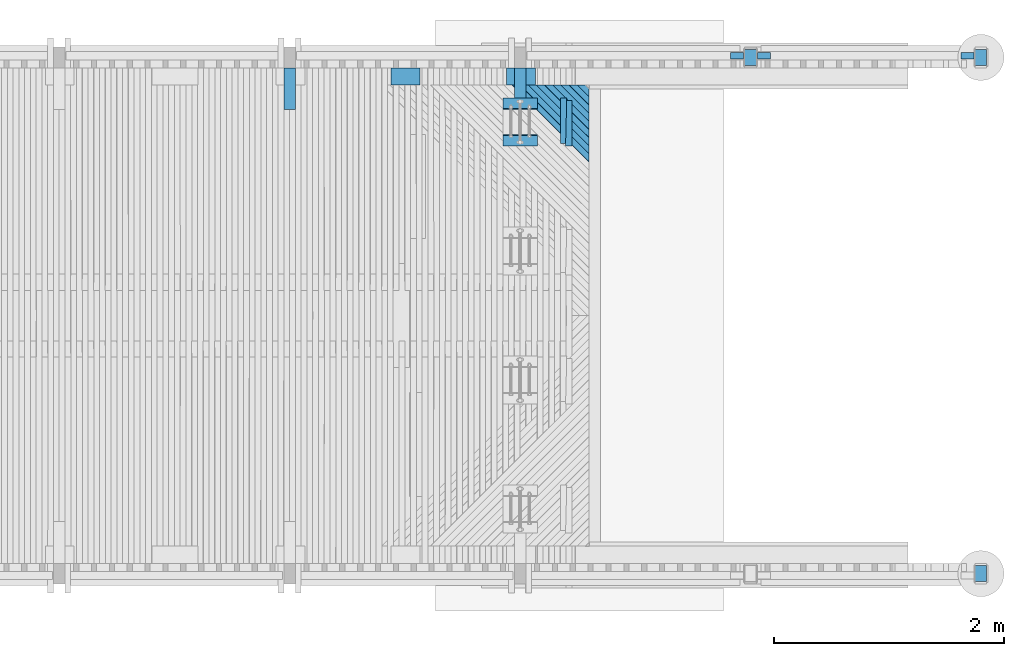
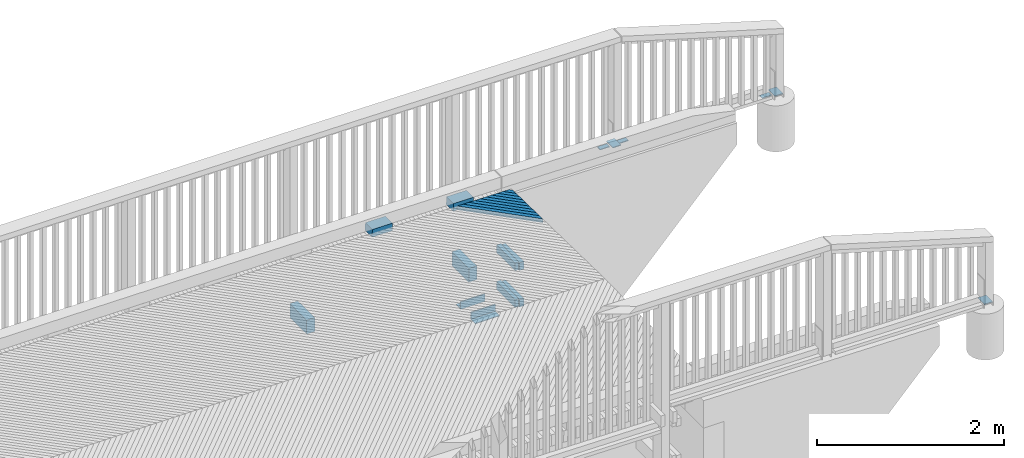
# One storey, part 49 of 52: 25 beams.
"""IFC2X3 building model written with IfcOpenShell, lengths in millimetres."""

import ifcopenshell
import ifcopenshell.guid

model = None  # the IFC model being written
_history = None  # IfcOwnerHistory: only IFC2X3 demands one
_inside = {}  # id of a spatial element -> (the spatial element, [elements in it])
_under = {}  # id of a project, library or spatial element -> (it, [spatial elements below it])
_declared = {}  # id of a project -> (the project, [libraries it declares])
_typed = {}  # id of a type object -> (the type object, [elements of that type])
_made_of = {}  # id of a material, layer set ... -> (it, [elements and type objects made of it])


def new_model(schema):
    """Start an empty IFC model of exactly this schema.

    Asked for "IFC4X3", IfcOpenShell would pick the latest addendum, in which some entities
    have other attributes; the version numbers below select the first issue.
    IFC2X3 requires an IfcOwnerHistory on every rooted entity: one is made here for all.
    """
    global model, _history
    if schema == "IFC4X3":
        model = ifcopenshell.file(schema_version=(4, 3, 0, 0))
    else:
        model = ifcopenshell.file(schema=schema)
    _inside.clear()
    _under.clear()
    _declared.clear()
    _typed.clear()
    _made_of.clear()
    _history = None
    if model.schema == "IFC2X3":
        org = make("IfcOrganization", Name="unknown")
        user = make(
            "IfcPersonAndOrganization",
            ThePerson=make("IfcPerson", FamilyName="unknown"),
            TheOrganization=org,
        )
        app = make(
            "IfcApplication",
            ApplicationDeveloper=org,
            Version="unknown",
            ApplicationFullName="unknown",
            ApplicationIdentifier="unknown",
        )
        _history = make(
            "IfcOwnerHistory",
            OwningUser=user,
            OwningApplication=app,
            ChangeAction="ADDED",
            CreationDate=0,
        )
    return model


def make(cls, **values):
    """One entity of the class cls with the attributes given. An attribute that is None is left unset."""
    return model.create_entity(
        cls, **{name: value for name, value in values.items() if value is not None}
    )


def rooted(cls, **values):
    """An entity with a GlobalId (a new one), such as an element, a storey or a relation."""
    return make(cls, GlobalId=ifcopenshell.guid.new(), OwnerHistory=_history, **values)


def si_unit(unit_type, name, prefix=None):
    """IfcSIUnit, for example si_unit("LENGTHUNIT", "METRE", prefix="MILLI")."""
    return make("IfcSIUnit", UnitType=unit_type, Prefix=prefix, Name=name)


def assignment(units):
    """IfcUnitAssignment: the units of a project."""
    return None if units is None else make("IfcUnitAssignment", Units=units)


def point(xyz):
    """IfcCartesianPoint."""
    return None if xyz is None else make("IfcCartesianPoint", Coordinates=xyz)


def direction(xyz):
    """IfcDirection."""
    return None if xyz is None else make("IfcDirection", DirectionRatios=xyz)


def frame(location, z_axis=None, x_axis=None):
    """IfcAxis2Placement3D, a coordinate frame: its origin and axes. An axis left out is left unset."""
    return make(
        "IfcAxis2Placement3D",
        Location=point(location),
        Axis=direction(z_axis),
        RefDirection=direction(x_axis),
    )


def origin_with_axes():
    """The frame at (0, 0, 0) with the z axis (0, 0, 1) and the x axis (1, 0, 0) written out."""
    return frame((0.0, 0.0, 0.0), z_axis=(0.0, 0.0, 1.0), x_axis=(1.0, 0.0, 0.0))


def place(relative_to, where):
    """IfcLocalPlacement: puts the frame where relative to a parent placement (None: the world)."""
    return make(
        "IfcLocalPlacement", PlacementRelTo=relative_to, RelativePlacement=where
    )


def context(
    kind, dimensions, precision=None, world=None, true_north=None, identifier=None
):
    """IfcGeometricRepresentationContext, for example the 3D "Model" context."""
    return make(
        "IfcGeometricRepresentationContext",
        ContextIdentifier=identifier,
        ContextType=kind,
        CoordinateSpaceDimension=dimensions,
        Precision=precision,
        WorldCoordinateSystem=world,
        TrueNorth=true_north,
    )


def subcontext(parent, identifier, kind, view, scale=None):
    """IfcGeometricRepresentationSubContext, for example "Body" below "Model"."""
    return make(
        "IfcGeometricRepresentationSubContext",
        ContextIdentifier=identifier,
        ContextType=kind,
        ParentContext=parent,
        TargetScale=scale,
        TargetView=view,
    )


def project(units=None, contexts=None):
    """IfcProject with its units and contexts."""
    return rooted(
        "IfcProject",
        Name="project",
        RepresentationContexts=contexts,
        UnitsInContext=assignment(units),
    )


def spatial(cls, under=None, at=None, **own):
    """A site, building, storey or space (cls), placed at a placement, below another one or the project."""
    s = rooted(cls, ObjectPlacement=at, **own)
    if under is not None:
        _under.setdefault(under.id(), (under, []))[1].append(s)
    return s


def faces_of(points, faces, orient=None, outer=None):
    """IfcFace entities. A face is a list of loops; a loop is a list of indices into points, from 0.

    orient and outer hold one flag for each loop. By default every Orientation is true, the
    first loop of a face is its IfcFaceOuterBound and the others are IfcFaceBound.
    """
    made = []
    for i, loops in enumerate(faces):
        bounds = []
        for j, loop in enumerate(loops):
            is_outer = j == 0 if outer is None else outer[i][j]
            bounds.append(
                make(
                    "IfcFaceOuterBound" if is_outer else "IfcFaceBound",
                    Bound=make("IfcPolyLoop", Polygon=[points[k] for k in loop]),
                    Orientation=True if orient is None else orient[i][j],
                )
            )
        made.append(make("IfcFace", Bounds=bounds))
    return made


def faceted_brep(points, faces, orient=None, outer=None, voids=None):
    """IfcFacetedBrep: a solid bounded by flat faces; with voids (closed shells), ...WithVoids."""
    shared = [point(p) for p in points]
    hull = make("IfcClosedShell", CfsFaces=faces_of(shared, faces, orient, outer))
    if voids is None:
        return make("IfcFacetedBrep", Outer=hull)
    return make(
        "IfcFacetedBrepWithVoids",
        Outer=hull,
        Voids=[
            make(cls, CfsFaces=faces_of(shared, fs, o, b)) for cls, fs, o, b in voids
        ],
    )


def shape(context_of_items, identifier, shape_type, items):
    """IfcShapeRepresentation: the items that make up one representation, for example the "Body"."""
    return make(
        "IfcShapeRepresentation",
        ContextOfItems=context_of_items,
        RepresentationIdentifier=identifier,
        RepresentationType=shape_type,
        Items=items,
    )


def material(Name=None, Category=None):
    """IfcMaterial."""
    return make("IfcMaterial", Name=Name, Category=Category)


def made_of(thing, what):
    """Note that an element or type object is made of a material, layer set ...; save() writes the relation."""
    if what is not None:
        _made_of.setdefault(what.id(), (what, []))[1].append(thing)
    return thing


def type_object(cls, material=None, **own):
    """A type object (cls), such as IfcWallType, which elements share."""
    return made_of(rooted(cls, **own), material)


def element(
    cls,
    number,
    at=None,
    inside=None,
    cuts=None,
    type_object=None,
    material=None,
    context=None,
    identifier="Body",
    shape_type=None,
    held_by="IfcProductDefinitionShape",
    body=None,
    shapes=None,
    **own,
):
    """One element of the class cls, such as IfcWall. Its Tag is "e" and its number.

    at: its placement. inside: the storey or other place that contains it. cuts: it is an
    opening in that element (IfcRelVoidsElement). A single representation is given by context,
    identifier, shape_type and body (its items); several are given by shapes. held_by: the class
    of the entity that holds the representations. save() writes the other relations.
    """
    e = rooted(cls, Tag="e%d" % number, ObjectPlacement=at, **own)
    if body is not None:
        shapes = [shape(context, identifier, shape_type, body)]
    if shapes is not None:
        e.Representation = make(held_by, Representations=shapes)
    if inside is not None:
        _inside.setdefault(inside.id(), (inside, []))[1].append(e)
    if cuts is not None:
        rooted(
            "IfcRelVoidsElement", RelatingBuildingElement=cuts, RelatedOpeningElement=e
        )
    if type_object is not None:
        _typed.setdefault(type_object.id(), (type_object, []))[1].append(e)
    return made_of(e, material)


def aggregate(whole, parts):
    """IfcRelAggregates: a whole, such as a stair, and the parts it consists of."""
    return rooted("IfcRelAggregates", RelatingObject=whole, RelatedObjects=parts)


def save(model, path):
    """Write the relations noted so far, then the file.

    IfcRelAggregates (storeys below a building ...), IfcRelContainedInSpatialStructure (elements
    in a storey), IfcRelDefinesByType, IfcRelAssociatesMaterial and IfcRelDeclares: one each for
    every whole, place, type object, material and project.
    """
    for whole, parts in _under.values():
        aggregate(whole, parts)
    for where, things in _inside.values():
        rooted(
            "IfcRelContainedInSpatialStructure",
            RelatedElements=things,
            RelatingStructure=where,
        )
    for kind, things in _typed.values():
        rooted("IfcRelDefinesByType", RelatedObjects=things, RelatingType=kind)
    for what, things in _made_of.values():
        rooted("IfcRelAssociatesMaterial", RelatedObjects=things, RelatingMaterial=what)
    for by, libraries in _declared.values():
        rooted("IfcRelDeclares", RelatingContext=by, RelatedDefinitions=libraries)
    model.write(path)


model = new_model("IFC2X3")

# Units and contexts
model_context = context("Model", 3, precision=1e-05, world=origin_with_axes())
body_context = subcontext(model_context, "Body", "Model", "MODEL_VIEW")
ifc_project = project(units=[si_unit("LENGTHUNIT", "METRE", prefix="MILLI"), si_unit("AREAUNIT", "SQUARE_METRE"), si_unit("VOLUMEUNIT", "CUBIC_METRE"), si_unit("MASSUNIT", "GRAM", prefix="KILO"), si_unit("TIMEUNIT", "SECOND"), si_unit("PLANEANGLEUNIT", "RADIAN"), si_unit("SOLIDANGLEUNIT", "STERADIAN"), si_unit("THERMODYNAMICTEMPERATUREUNIT", "DEGREE_CELSIUS"), si_unit("LUMINOUSINTENSITYUNIT", "LUMEN")], contexts=[model_context])

# Site, building, storey
site_placement = place(None, origin_with_axes())
site = spatial("IfcSite", under=ifc_project, at=site_placement, Name="Undefined", CompositionType="ELEMENT")
building_placement = place(site_placement, origin_with_axes())
building = spatial("IfcBuilding", under=site, at=building_placement, Name="Undefined", CompositionType="ELEMENT")
storey_placement = place(building_placement, origin_with_axes())
storey = spatial("IfcBuildingStorey", under=building, at=storey_placement, Name="Undefined", CompositionType="ELEMENT", Elevation=0.0)

# Beams
ifc_material_1 = material(Name="TIMBER/Timber_Undefined")
beam_type_1 = type_object("IfcBeamType", Name="150*100", PredefinedType="NOTDEFINED")
for number, where, z_axis, x_axis in (
    (1, (15881.7966501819, 4439.99999999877, 3166.35655532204), (0.0, -1.0, 0.0), (0.999929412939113, 0.0, -0.0118814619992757)),
    (2, (14881.4642555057, 4439.99999999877, 3178.62153167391), (0.0, -1.0, 0.0), (0.999947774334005, 0.0, -0.0102200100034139)),
):
    element("IfcBeam", number, at=place(storey_placement, frame(where, z_axis=z_axis, x_axis=x_axis)), inside=storey, type_object=beam_type_1, material=ifc_material_1, Name="TÖRMÄYSJOHDE", ObjectType="150*100", context=body_context, shape_type="Brep", body=[
        faceted_brep([(-3.63797880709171e-12, 50.0, -75.0), (-3.63797880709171e-12, 50.0, 75.0), (250.000589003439, 50.0000000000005, 75.0), (250.000589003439, 50.0000000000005, -75.0), (0.0, -49.9999999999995, 75.0), (250.000589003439, -50.0, 75.0), (0.0, -49.9999999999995, -75.0), (250.000589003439, -50.0, -75.0)], [[[0, 1, 2, 3]], [[1, 4, 5, 2]], [[4, 6, 7, 5]], [[6, 0, 3, 7]], [[5, 7, 3, 2]], [[6, 4, 1, 0]]]),
    ])
ifc_material_2 = material(Name="STEEL/AISI316")
beam_type_2 = type_object("IfcBeamType", Name="PL60*10", PredefinedType="NOTDEFINED")
for number, where, z_axis, x_axis in (
    (3, (19940.0034960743, 4620.00000020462, 3073.75999999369), (0.000116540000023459, -0.999999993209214, 0.0), (-0.999999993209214, -0.000116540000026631, 0.0)),
    (4, (18059.9965039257, 4620.00000020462, 3101.8699999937), (-0.000116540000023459, -0.999999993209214, 0.0), (0.999999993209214, -0.000116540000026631, 0.0)),
    (5, (17940.0034960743, 4620.00000020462, 3101.86999999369), (0.000116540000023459, -0.999999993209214, 0.0), (-0.999999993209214, -0.000116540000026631, 0.0)),
):
    element("IfcBeam", number, at=place(storey_placement, frame(where, z_axis=z_axis, x_axis=x_axis)), inside=storey, type_object=beam_type_2, material=ifc_material_2, Name="KAIDEPYLVÄS", ObjectType="PL60*10", context=body_context, shape_type="Brep", body=[
        faceted_brep([(0.0, 5.0, -30.0), (3.63797880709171e-12, 5.0, 30.0000000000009), (115.000000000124, 5.0, 30.0000000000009), (115.000000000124, 5.0, -30.0), (3.63797880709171e-12, -5.0, 30.0000000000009), (115.000000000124, -5.0, 30.0000000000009), (0.0, -5.0, -30.0), (115.000000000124, -5.0, -30.0)], [[[0, 1, 2, 3]], [[1, 4, 5, 2]], [[4, 6, 7, 5]], [[6, 0, 3, 7]], [[5, 7, 3, 2]], [[6, 4, 1, 0]]]),
    ])
beam_type_3 = type_object("IfcBeamType", Name="PL100*10", PredefinedType="NOTDEFINED")
for number, where, z_axis, x_axis in (
    (6, (19999.9999998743, 4674.98000000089, 3089.56000000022), (1.0, 0.0, 0.0), (0.0, -1.0, 0.0)),
    (7, (17999.9999998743, 4674.98000000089, 3117.67000000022), (1.0, 0.0, 0.0), (0.0, -1.0, 0.0)),
    (8, (19999.9999998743, 55.0200000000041, 3089.56000000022), (1.0, 0.0, 0.0), (0.0, 1.0, 0.0)),
):
    element("IfcBeam", number, at=place(storey_placement, frame(where, z_axis=z_axis, x_axis=x_axis)), inside=storey, type_object=beam_type_3, material=ifc_material_2, Name="KAIDEPYLVÄS", ObjectType="PL100*10", context=body_context, shape_type="Brep", body=[
        faceted_brep([(0.0, 5.0, -50.0), (0.0, 5.0, 50.0), (140.0, 5.0, 50.0), (140.0, 5.0, -50.0), (0.0, -5.0, 50.0), (140.0, -5.0, 50.0), (0.0, -5.0, -50.0), (140.0, -5.0, -50.0)], [[[0, 1, 2, 3]], [[1, 4, 5, 2]], [[4, 6, 7, 5]], [[6, 0, 3, 7]], [[5, 7, 3, 2]], [[6, 4, 1, 0]]]),
    ])
ifc_material_3 = material(Name="STEEL/S235JR")
beam_type_4 = type_object("IfcBeamType", Name="L100*10", PredefinedType="NOTDEFINED")
for number, where, z_axis, x_axis, name in (
    (9, (16150.0, 3887.50000000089, 2025.33), (0.0, -1.0, 0.0), (-1.0, 0.0, 0.0), "BEAM"),
    (10, (16150.0, 4202.50000000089, 2025.33), (0.0, 0.0, 1.0), (-1.0, 0.0, 0.0), "BEAM"),
):
    element("IfcBeam", number, at=place(storey_placement, frame(where, z_axis=z_axis, x_axis=x_axis)), inside=storey, type_object=beam_type_4, material=ifc_material_3, Name=name, ObjectType="L100*10", context=body_context, shape_type="Brep", body=[
        faceted_brep([(0.0, 50.0, -50.0), (0.0, 50.0, 50.0), (300.0, 50.0, 50.0), (300.0, 50.0, -50.0), (0.0, 40.0, 50.0), (300.0, 40.0, 50.0), (0.0, 40.0, -40.0), (300.0, 40.0, -40.0), (0.0, -50.0, -40.0), (300.0, -50.0, -40.0), (0.0, -50.0, -50.0), (300.0, -50.0, -50.0)], [[[0, 1, 2, 3]], [[1, 4, 5, 2]], [[4, 6, 7, 5]], [[6, 8, 9, 7]], [[8, 10, 11, 9]], [[10, 0, 3, 11]], [[5, 7, 9, 11, 3, 2]], [[10, 8, 6, 4, 1, 0]]]),
    ])
beam_type_5 = type_object("IfcBeamType", Name="100*60", PredefinedType="NOTDEFINED")
beam_1_placement = place(storey_placement, frame((16380.01, 3857.5, 2533.62000000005), z_axis=(0.0, 0.0, 1.0), x_axis=(0.0, 1.0, 0.0)))
element("IfcBeam", 11, at=beam_1_placement, inside=storey, type_object=beam_type_5, material=ifc_material_1, Name="BEAM", ObjectType="100*60", context=body_context, shape_type="Brep", body=[
    faceted_brep([(0.0, 30.0, -50.0), (0.0, 30.0, 50.0), (395.0, 30.0, 50.0), (395.0, 30.0, -50.0), (395.0, -25.2500000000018, 50.0), (395.0, -25.2500000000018, -50.0), (0.0, -15.2499998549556, -50.0), (0.0, -15.2499998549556, 50.0)], [[[0, 1, 2, 3]], [[3, 2, 4, 5]], [[0, 3, 5, 6]], [[1, 0, 6, 7]], [[2, 1, 7, 4]], [[6, 5, 4, 7]]]),
])
beam_2_placement = place(storey_placement, frame((16420.01, 3837.5, 2533.62000000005), z_axis=(0.0, 0.0, 1.0), x_axis=(0.0, 1.0, 0.0)))
element("IfcBeam", 12, at=beam_2_placement, inside=storey, type_object=beam_type_5, material=ifc_material_1, Name="BEAM", ObjectType="100*60", context=body_context, shape_type="Brep", body=[
    faceted_brep([(0.0, -30.0, 50.0), (0.0, -30.0, -50.0), (395.0, -30.0, -50.0), (395.0, -30.0, 50.0), (395.0, 15.2563291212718, 50.0), (0.0, 25.2563292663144, 50.0), (0.0, 25.2563292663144, -50.0), (395.0, 15.2563291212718, -50.0)], [[[0, 1, 2, 3]], [[0, 3, 4, 5]], [[1, 0, 5, 6]], [[2, 1, 6, 7]], [[3, 2, 7, 4]], [[6, 5, 4, 7]]]),
])
beam_3_placement = place(storey_placement, frame((16380.0, 3857.5, 2055.33), z_axis=(0.0, 0.0, 1.0), x_axis=(0.0, 1.0, 0.0)))
element("IfcBeam", 13, at=beam_3_placement, inside=storey, type_object=beam_type_5, material=ifc_material_1, Name="BEAM", ObjectType="100*60", context=body_context, shape_type="Brep", body=[
    faceted_brep([(0.0, 30.0, -50.0), (0.0, 30.0, 50.0), (395.0, 30.0, 50.0), (395.0, 30.0, -50.0), (395.0, -25.2500000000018, 50.0), (395.0, -25.2500000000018, -50.0), (0.0, -15.2499998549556, -50.0), (0.0, -15.2499998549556, 50.0)], [[[0, 1, 2, 3]], [[3, 2, 4, 5]], [[0, 3, 5, 6]], [[1, 0, 6, 7]], [[2, 1, 7, 4]], [[6, 5, 4, 7]]]),
])
beam_4_placement = place(storey_placement, frame((16420.0, 3837.5, 2055.33), z_axis=(0.0, 0.0, 1.0), x_axis=(0.0, 1.0, 0.0)))
element("IfcBeam", 14, at=beam_4_placement, inside=storey, type_object=beam_type_5, material=ifc_material_1, Name="BEAM", ObjectType="100*60", context=body_context, shape_type="Brep", body=[
    faceted_brep([(0.0, -30.0, 50.0), (0.0, -30.0, -50.0), (395.0, -30.0, -50.0), (395.0, -30.0, 50.0), (395.0, 15.2563291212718, 50.0), (0.0, 25.2563292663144, 50.0), (0.0, 25.2563292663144, -50.0), (395.0, 15.2563291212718, -50.0)], [[[0, 1, 2, 3]], [[0, 3, 4, 5]], [[1, 0, 5, 6]], [[2, 1, 6, 7]], [[3, 2, 7, 4]], [[6, 5, 4, 7]]]),
])
beam_type_6 = type_object("IfcBeamType", Name="50*50", PredefinedType="NOTDEFINED")
beam_5_placement = place(storey_placement, frame((18531.7317784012, 2365.49989967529, 3144.0077743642), z_axis=(0.706781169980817, 0.706981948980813, -0.0252369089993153), x_axis=(-0.707258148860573, 0.706948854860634, -0.00303767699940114)))
element("IfcBeam", 15, at=beam_5_placement, inside=storey, type_object=beam_type_6, material=ifc_material_1, Name="BEAM", ObjectType="50*50", context=body_context, shape_type="Brep", body=[
    faceted_brep([(2804.3406783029, -25.0000000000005, 24.9999999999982), (2854.34301907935, -24.9999999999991, -25.0), (2852.92877373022, 25.0000000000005, -25.0), (2802.92643296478, 25.0, 24.9999999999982), (2756.83447595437, 24.9999999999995, 24.9999999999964), (2755.72500686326, -25.0000000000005, 24.9999999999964), (2705.75872714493, -25.0000000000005, -25.0000000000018), (2706.86819623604, 25.0, -25.0000000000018)], [[[0, 1, 2, 3]], [[0, 3, 4, 5]], [[1, 0, 5, 6]], [[2, 1, 6, 7]], [[3, 2, 7, 4]], [[6, 5, 4, 7]]]),
])
beam_6_placement = place(storey_placement, frame((18461.0182922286, 2365.49989967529, 3145.24068549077), z_axis=(0.7067841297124, 0.706981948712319, -0.0251538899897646), x_axis=(-0.70725778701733, 0.706948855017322, -0.00312075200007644)))
element("IfcBeam", 16, at=beam_6_placement, inside=storey, type_object=beam_type_6, material=ifc_material_1, Name="BEAM", ObjectType="50*50", context=body_context, shape_type="Brep", body=[
    faceted_brep([(2804.3406783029, -25.0000000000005, 24.9999999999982), (2854.34301907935, -24.9999999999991, -25.0), (2852.92877373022, 25.0000000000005, -25.0), (2802.92643296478, 25.0, 24.9999999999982), (2656.84922092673, 25.0000000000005, 25.0000000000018), (2655.74805253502, -24.9999999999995, 25.0), (2605.78153801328, -25.0, -25.0000000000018), (2606.88270640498, 25.0000000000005, -25.0000000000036)], [[[0, 1, 2, 3]], [[0, 3, 4, 5]], [[1, 0, 5, 6]], [[2, 1, 6, 7]], [[3, 2, 7, 4]], [[6, 5, 4, 7]]]),
])
beam_7_placement = place(storey_placement, frame((18390.3046617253, 2365.49989967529, 3146.4652905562), z_axis=(0.70678707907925, 0.70698194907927, -0.0250708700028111), x_axis=(-0.707257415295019, 0.70694885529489, -0.00320382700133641)))
element("IfcBeam", 17, at=beam_7_placement, inside=storey, type_object=beam_type_6, material=ifc_material_1, Name="BEAM", ObjectType="50*50", context=body_context, shape_type="Brep", body=[
    faceted_brep([(2804.3406783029, -25.0000000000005, 24.9999999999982), (2854.34301907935, -24.9999999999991, -25.0), (2852.92877373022, 25.0000000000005, -25.0), (2802.92643296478, 25.0, 24.9999999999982), (2556.86369484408, 25.0000000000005, 25.0000000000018), (2555.77082719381, -25.0, 25.0000000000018), (2505.80407790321, -25.0000000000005, -25.0), (2506.89694555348, 25.0, -25.0)], [[[0, 1, 2, 3]], [[0, 3, 4, 5]], [[1, 0, 5, 6]], [[2, 1, 6, 7]], [[3, 2, 7, 4]], [[6, 5, 4, 7]]]),
])
beam_8_placement = place(storey_placement, frame((18319.5908878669, 2365.49989967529, 3147.68158954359), z_axis=(0.706790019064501, 0.706981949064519, -0.0249878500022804), x_axis=(-0.707257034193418, 0.706948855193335, -0.00328690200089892)))
element("IfcBeam", 18, at=beam_8_placement, inside=storey, type_object=beam_type_6, material=ifc_material_1, Name="BEAM", ObjectType="50*50", context=body_context, shape_type="Brep", body=[
    faceted_brep([(2804.3406783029, -25.0000000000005, 24.9999999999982), (2854.34301907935, -24.9999999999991, -25.0), (2852.92877373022, 25.0000000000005, -25.0), (2802.92643296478, 25.0, 24.9999999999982), (2456.87789321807, 24.9999999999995, 25.0), (2455.79332630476, -25.0, 25.0000000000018), (2405.82634224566, -25.0, -24.9999999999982), (2406.91090915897, 24.9999999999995, -24.9999999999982)], [[[0, 1, 2, 3]], [[0, 3, 4, 5]], [[1, 0, 5, 6]], [[2, 1, 6, 7]], [[3, 2, 7, 4]], [[6, 5, 4, 7]]]),
])
beam_9_placement = place(storey_placement, frame((18248.8769716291, 2365.49989967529, 3148.88958243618), z_axis=(0.706792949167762, 0.706981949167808, -0.0249048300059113), x_axis=(-0.707256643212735, 0.706948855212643, -0.00336997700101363)))
element("IfcBeam", 19, at=beam_9_placement, inside=storey, type_object=beam_type_6, material=ifc_material_1, Name="BEAM", ObjectType="50*50", context=body_context, shape_type="Brep", body=[
    faceted_brep([(2804.3406783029, -25.0000000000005, 24.9999999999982), (2854.34301907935, -24.9999999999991, -25.0), (2852.92877373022, 25.0000000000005, -25.0), (2802.92643296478, 25.0, 24.9999999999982), (2356.89181509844, 25.0000000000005, 25.0000000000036), (2355.81554891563, -24.9999999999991, 25.0000000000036), (2305.84833008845, -24.9999999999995, -24.9999999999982), (2306.92459627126, 25.0000000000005, -24.9999999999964)], [[[0, 1, 2, 3]], [[0, 3, 4, 5]], [[1, 0, 5, 6]], [[2, 1, 6, 7]], [[3, 2, 7, 4]], [[6, 5, 4, 7]]]),
])
beam_10_placement = place(storey_placement, frame((18178.1629139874, 2365.49989967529, 3150.08926921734), z_axis=(0.706795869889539, 0.706981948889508, -0.0248218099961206), x_axis=(-0.707256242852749, 0.706948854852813, -0.00345305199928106)))
element("IfcBeam", 20, at=beam_10_placement, inside=storey, type_object=beam_type_6, material=ifc_material_1, Name="BEAM", ObjectType="50*50", context=body_context, shape_type="Brep", body=[
    faceted_brep([(2804.3406783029, -25.0000000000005, 24.9999999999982), (2854.34301907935, -24.9999999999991, -25.0), (2852.92877373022, 25.0000000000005, -25.0), (2802.92643296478, 25.0, 24.9999999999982), (2256.90545609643, 25.0, 25.0), (2255.8374906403, -25.0, 25.0), (2205.87003704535, -25.0000000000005, -25.0), (2206.93800250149, 25.0, -25.0000000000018)], [[[0, 1, 2, 3]], [[0, 3, 4, 5]], [[1, 0, 5, 6]], [[2, 1, 6, 7]], [[3, 2, 7, 4]], [[6, 5, 4, 7]]]),
])
beam_11_placement = place(storey_placement, frame((18107.4487159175, 2365.49989967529, 3151.28064987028), z_axis=(0.706798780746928, 0.706981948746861, -0.0247387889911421), x_axis=(-0.707255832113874, 0.706948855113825, -0.00353612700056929)))
element("IfcBeam", 21, at=beam_11_placement, inside=storey, type_object=beam_type_6, material=ifc_material_1, Name="BEAM", ObjectType="50*50", context=body_context, shape_type="Brep", body=[
    faceted_brep([(2804.3406783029, -25.0000000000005, 24.9999999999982), (2854.34301907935, -24.9999999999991, -25.0), (2852.92877373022, 25.0000000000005, -25.0), (2802.92643296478, 25.0, 24.9999999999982), (2156.91881662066, 25.0, 25.0), (2155.85915193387, -24.9999999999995, 25.0), (2105.891463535, -24.9999999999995, -25.0000000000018), (2106.95112822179, 24.9999999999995, -25.0000000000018)], [[[0, 1, 2, 3]], [[0, 3, 4, 5]], [[1, 0, 5, 6]], [[2, 1, 6, 7]], [[3, 2, 7, 4]], [[6, 5, 4, 7]]]),
])
beam_12_placement = place(storey_placement, frame((18036.7343783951, 2365.49989967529, 3152.46372437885), z_axis=(0.706801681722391, 0.706981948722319, -0.024655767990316), x_axis=(-0.707255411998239, 0.70694885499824, -0.00361920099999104)))
element("IfcBeam", 22, at=beam_12_placement, inside=storey, type_object=beam_type_6, material=ifc_material_1, Name="BEAM", ObjectType="50*50", context=body_context, shape_type="Brep", body=[
    faceted_brep([(2804.3406783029, -25.0000000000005, 24.9999999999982), (2854.34301907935, -24.9999999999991, -25.0), (2852.92877373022, 25.0000000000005, -25.0), (2802.92643296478, 25.0, 24.9999999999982), (2056.9318907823, 25.0000000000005, 25.0000000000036), (2055.88052681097, -24.9999999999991, 25.0000000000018), (2005.91260364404, -24.9999999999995, -24.9999999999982), (2006.96396761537, 25.0000000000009, -24.9999999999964)], [[[0, 1, 2, 3]], [[0, 3, 4, 5]], [[1, 0, 5, 6]], [[2, 1, 6, 7]], [[3, 2, 7, 4]], [[6, 5, 4, 7]]]),
])
beam_13_placement = place(storey_placement, frame((17966.0199023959, 2365.49989967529, 3153.6384927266), z_axis=(0.70680457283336, 0.706981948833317, -0.0245727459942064), x_axis=(-0.707254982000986, 0.706948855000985, -0.00370227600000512)))
element("IfcBeam", 23, at=beam_13_placement, inside=storey, type_object=beam_type_6, material=ifc_material_1, Name="BEAM", ObjectType="50*50", context=body_context, shape_type="Brep", body=[
    faceted_brep([(2804.3406783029, -25.0000000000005, 24.9999999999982), (2854.34301907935, -24.9999999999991, -25.0), (2852.92877373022, 25.0000000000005, -25.0), (2802.92643296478, 25.0, 24.9999999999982), (1956.94467730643, 25.0, 25.0000000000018), (1955.90161414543, -25.0, 25.0000000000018), (1905.9334562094, -25.0000000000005, -25.0), (1906.9765193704, 25.0, -24.9999999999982)], [[[0, 1, 2, 3]], [[0, 3, 4, 5]], [[1, 0, 5, 6]], [[2, 1, 6, 7]], [[3, 2, 7, 4]], [[6, 5, 4, 7]]]),
])
beam_type_7 = type_object("IfcBeamType", Name="180*100", PredefinedType="NOTDEFINED")
for number, where, z_axis, x_axis in (
    (24, (16000.0000678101, 4514.98790809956, 2385.26004297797), (0.0, 0.0, 1.0), (0.0, -1.0, 0.0)),
    (25, (14000.0000678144, 4514.98790809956, 2408.46176690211), (0.0, 0.0, 1.0), (0.0, -1.0, 0.0)),
):
    element("IfcBeam", number, at=place(storey_placement, frame(where, z_axis=z_axis, x_axis=x_axis)), inside=storey, type_object=beam_type_7, material=ifc_material_1, Name="KAIDEPYLVÄS", ObjectType="180*100", context=body_context, shape_type="Brep", body=[
        faceted_brep([(0.0, 50.0, -90.0), (0.0, 50.0, 90.0), (362.490000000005, 50.0, 90.0), (362.490000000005, 50.0, -90.0), (0.0, -50.0, 90.0), (362.490000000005, -50.0, 90.0), (0.0, -50.0, -90.0), (362.490000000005, -50.0, -90.0)], [[[0, 1, 2, 3]], [[1, 4, 5, 2]], [[4, 6, 7, 5]], [[6, 0, 3, 7]], [[5, 7, 3, 2]], [[6, 4, 1, 0]]]),
    ])

save(model, "model.ifc")
